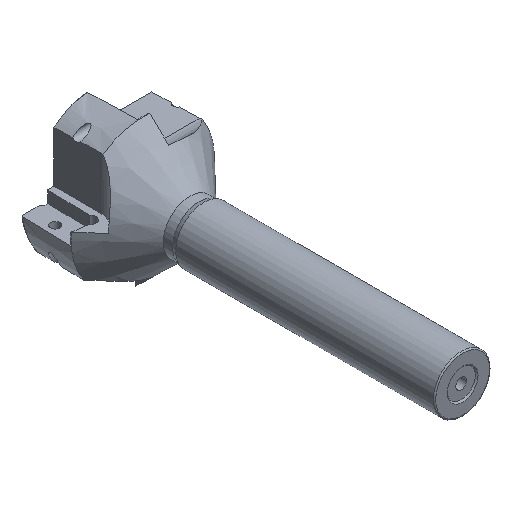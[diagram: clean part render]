
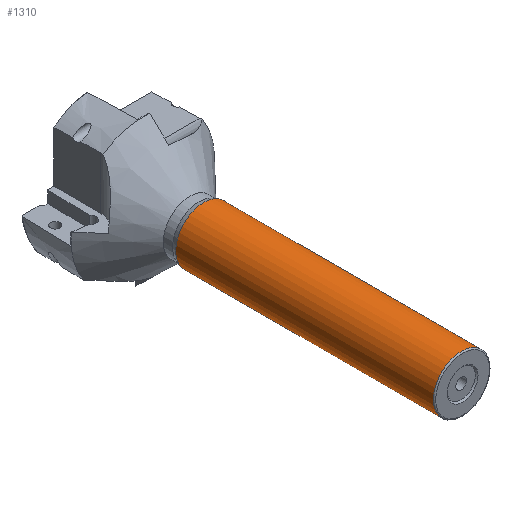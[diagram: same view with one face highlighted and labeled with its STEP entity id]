
A CAD part, isometric view. The second image highlights one B-rep face of the part: STEP entity #1310.
In plain terms, the highlighted cylindrical face has radius 6 mm (diameter 12 mm), a full revolution.
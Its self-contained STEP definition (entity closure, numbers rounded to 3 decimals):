
#15=CYLINDRICAL_SURFACE('',#1430,6.);
#95=LINE('',#2514,#174);
#174=VECTOR('',#1650,6.);
#285=FACE_OUTER_BOUND('',#354,.T.);
#354=EDGE_LOOP('',(#988,#989,#990,#991,#992,#993,#994));
#432=CIRCLE('',#1426,6.);
#433=CIRCLE('',#1427,6.);
#434=CIRCLE('',#1428,6.);
#436=CIRCLE('',#1431,6.);
#437=CIRCLE('',#1432,6.);
#597=VERTEX_POINT('',#2504);
#598=VERTEX_POINT('',#2506);
#599=VERTEX_POINT('',#2508);
#600=VERTEX_POINT('',#2513);
#601=VERTEX_POINT('',#2515);
#753=EDGE_CURVE('',#597,#598,#432,.T.);
#754=EDGE_CURVE('',#598,#599,#433,.T.);
#755=EDGE_CURVE('',#599,#597,#434,.T.);
#757=EDGE_CURVE('',#598,#600,#95,.T.);
#758=EDGE_CURVE('',#600,#601,#436,.T.);
#759=EDGE_CURVE('',#601,#600,#437,.T.);
#988=ORIENTED_EDGE('',*,*,#755,.F.);
#989=ORIENTED_EDGE('',*,*,#754,.F.);
#990=ORIENTED_EDGE('',*,*,#757,.T.);
#991=ORIENTED_EDGE('',*,*,#758,.T.);
#992=ORIENTED_EDGE('',*,*,#759,.T.);
#993=ORIENTED_EDGE('',*,*,#757,.F.);
#994=ORIENTED_EDGE('',*,*,#753,.F.);
#1310=ADVANCED_FACE('',(#285),#15,.T.);
#1426=AXIS2_PLACEMENT_3D('',#2507,#1640,#1641);
#1427=AXIS2_PLACEMENT_3D('',#2509,#1642,#1643);
#1428=AXIS2_PLACEMENT_3D('',#2510,#1644,#1645);
#1430=AXIS2_PLACEMENT_3D('',#2512,#1648,#1649);
#1431=AXIS2_PLACEMENT_3D('',#2516,#1651,#1652);
#1432=AXIS2_PLACEMENT_3D('',#2517,#1653,#1654);
#1640=DIRECTION('center_axis',(0.,-1.,0.));
#1641=DIRECTION('ref_axis',(-1.,0.,0.));
#1642=DIRECTION('center_axis',(0.,-1.,0.));
#1643=DIRECTION('ref_axis',(-1.,0.,0.));
#1644=DIRECTION('center_axis',(0.,-1.,0.));
#1645=DIRECTION('ref_axis',(-1.,0.,0.));
#1648=DIRECTION('center_axis',(0.,-1.,0.));
#1649=DIRECTION('ref_axis',(1.,0.,0.));
#1650=DIRECTION('',(0.,1.,0.));
#1651=DIRECTION('center_axis',(0.,-1.,0.));
#1652=DIRECTION('ref_axis',(1.,0.,0.));
#1653=DIRECTION('center_axis',(0.,-1.,0.));
#1654=DIRECTION('ref_axis',(1.,0.,0.));
#2504=CARTESIAN_POINT('',(0.,0.25,6.));
#2506=CARTESIAN_POINT('',(-6.,0.25,0.));
#2507=CARTESIAN_POINT('Origin',(0.,0.25,
0.));
#2508=CARTESIAN_POINT('',(6.,0.25,0.));
#2509=CARTESIAN_POINT('Origin',(0.,0.25,
0.));
#2510=CARTESIAN_POINT('Origin',(0.,0.25,
0.));
#2512=CARTESIAN_POINT('Origin',(0.,27.65,0.));
#2513=CARTESIAN_POINT('',(-6.,55.3,0.));
#2514=CARTESIAN_POINT('',(-6.,27.65,0.));
#2515=CARTESIAN_POINT('',(6.,55.3,0.));
#2516=CARTESIAN_POINT('Origin',(0.,55.3,0.));
#2517=CARTESIAN_POINT('Origin',(0.,55.3,0.));
